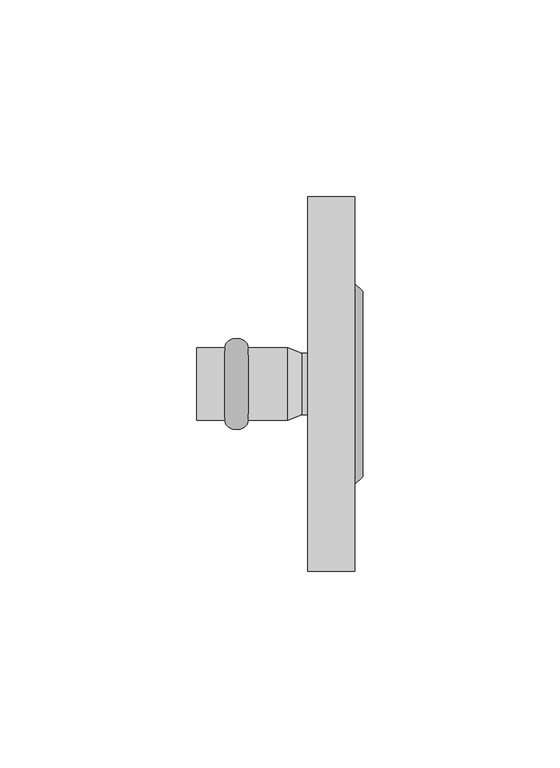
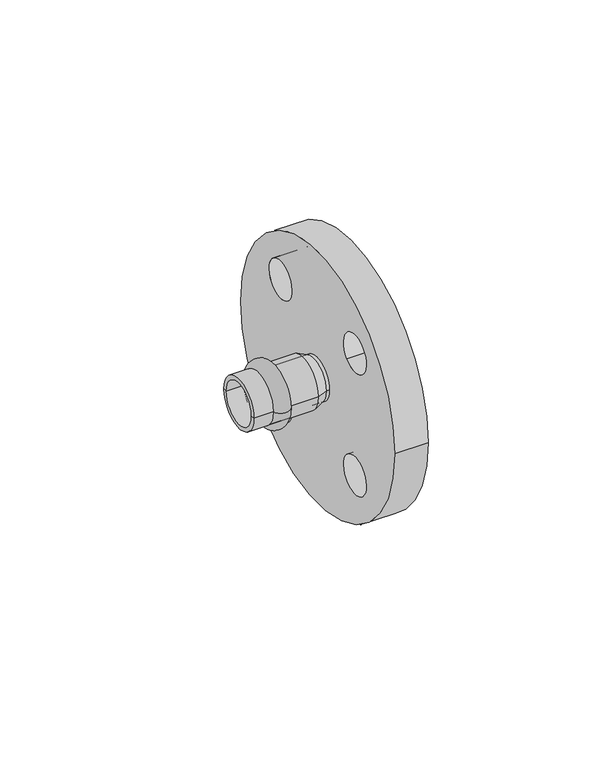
"""IFC4 building model written with IfcOpenShell, lengths in millimetres: pipe fitting geometry, РЕХАУ_Пресс Фланец : 15 x DN15."""

from ifc_helpers import new_model, si_unit, point, frame, frame_2d, origin, origin_2d, place, context, project, spatial, polyline, circle_curve, ellipse_curve, trimmed, segment, composite_curve, outline, extrude, source, transform, mapped, element, save
from ifc_brep_helpers import plane_surface, cylinder_surface, revolved_surface, advanced_brep


def pipe_fitting_cae4833f(model_context):
    return source(origin(), model_context, "Body", "SolidModel", [
        advanced_brep(
        [(-16.0, 9.25, 0.0), (-16.0, -9.25, 0.0), (-10.1, -9.25, 0.0), (-10.1, 9.25, 0.0)],
        [
            (0, 1, circle_curve(frame((-16.0, 0.0, 0.0), z_axis=(-1.0, 0.0, 0.0), x_axis=(0.0, -1.0, 0.0)), 9.25)),
            (1, 2),
            (2, 3, circle_curve(frame((-10.1, 0.0, 0.0), z_axis=(1.0, 0.0, 0.0), x_axis=(0.0, -1.0, 0.0)), 9.25)),
            (3, 0),
            (1, 0, circle_curve(frame((-16.0, 0.0, 0.0), z_axis=(-1.0, 0.0, 0.0), x_axis=(0.0, -1.0, 0.0)), 9.25)),
            (3, 2, circle_curve(frame((-10.1, 0.0, 0.0), z_axis=(1.0, 0.0, 0.0), x_axis=(0.0, -1.0, 0.0)), 9.25)),
            (2, 1, ellipse_curve(frame((-13.05, -9.25, 0.0), z_axis=(0.0, 0.0, -1.0), x_axis=(-1.0, 0.0, 0.0)), 2.95, 2.3)),
            (0, 3, ellipse_curve(frame((-13.05, 9.25, 0.0), z_axis=(0.0, 0.0, -1.0), x_axis=(-1.0, 0.0, 0.0)), 2.95, 2.3)),
        ],
        [
            revolved_surface(polyline([(-10.1, -9.25, 0.0), (-15.999999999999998, -9.25, 0.0)]), (2.9, 0.0, 0.0), (1.0, 0.0, 0.0)),
            revolved_surface(trimmed(ellipse_curve(frame((-13.05, -9.25, 0.0), z_axis=(0.0, 0.0, 1.0), x_axis=(-1.0, 0.0, 0.0)), 2.95, 2.3), [point((-16.0, -9.25, 0.0))], [point((-10.1, -9.25, 0.0))], True, "CARTESIAN"), (2.9, 0.0, 0.0), (1.0, 0.0, 0.0)),
        ],
        [
            (0, [[1, 2, 3, 4]]),
            (0, [[5, -4, 6, -2]]),
            (1, [[-3, 7, -1, 8]]),
            (1, [[-6, -8, -5, -7]]),
        ],
    ),
        advanced_brep(
        [(3.5337785, 7.75, 0.0), (3.5337785, -7.75, 0.0), (0.0, -9.25, 0.0), (0.0, 9.25, 0.0), (-23.1, 7.75, 0.0), (-23.1, -7.75, 0.0), (-23.1, 9.25, 0.0), (-23.1, -9.25, 0.0)],
        [
            (0, 1, circle_curve(frame((3.5337785, 0.0, 0.0), z_axis=(-1.0, 0.0, 0.0), x_axis=(0.0, -1.0, 0.0)), 7.75)),
            (1, 2),
            (2, 3, circle_curve(frame((0.0, 0.0, 0.0), z_axis=(1.0, 0.0, 0.0), x_axis=(0.0, -1.0, 0.0)), 9.25)),
            (3, 0),
            (1, 0, circle_curve(frame((3.5337785, 0.0, 0.0), z_axis=(-1.0, 0.0, 0.0), x_axis=(0.0, -1.0, 0.0)), 7.75)),
            (3, 2, circle_curve(frame((0.0, 0.0, 0.0), z_axis=(1.0, 0.0, 0.0), x_axis=(0.0, -1.0, 0.0)), 9.25)),
            (4, 5, circle_curve(frame((-23.1, 0.0, 0.0), z_axis=(-1.0, 0.0, 0.0), x_axis=(0.0, -1.0, 0.0)), 7.75)),
            (5, 1),
            (0, 4),
            (5, 4, circle_curve(frame((-23.1, 0.0, 0.0), z_axis=(-1.0, 0.0, 0.0), x_axis=(0.0, -1.0, 0.0)), 7.75)),
            (6, 7, circle_curve(frame((-23.1, 0.0, 0.0), z_axis=(-1.0, 0.0, 0.0), x_axis=(0.0, -1.0, 0.0)), 9.25)),
            (7, 5),
            (4, 6),
            (7, 6, circle_curve(frame((-23.1, 0.0, 0.0), z_axis=(-1.0, 0.0, 0.0), x_axis=(0.0, -1.0, 0.0)), 9.25)),
            (2, 7),
            (6, 3),
        ],
        [
            revolved_surface(polyline([(0.0, -9.25, 0.0), (3.5337785, -7.75, 0.0)]), (2.9, 0.0, 0.0), (1.0, 0.0, 0.0)),
            revolved_surface(polyline([(3.5337785, -7.75, 0.0), (-23.1, -7.75, 0.0)]), (2.9, 0.0, 0.0), (1.0, 0.0, 0.0)),
            plane_surface(frame((-23.1, 0.0, 0.0), z_axis=(-1.0, 0.0, 0.0), x_axis=(0.0, -1.0, 0.0))),
            cylinder_surface(frame((2.9, 0.0, 0.0), z_axis=(1.0, 0.0, 0.0), x_axis=(0.0, -1.0, 0.0)), 9.25),
        ],
        [
            (0, [[1, 2, 3, 4]]),
            (0, [[5, -4, 6, -2]]),
            (1, [[7, 8, -1, 9]]),
            (1, [[10, -9, -5, -8]]),
            (2, [[11, 12, -7, 13]]),
            (2, [[14, -13, -10, -12]]),
            (3, [[-3, 15, -11, 16]]),
            (3, [[-6, -16, -14, -15]]),
        ],
    ),
        advanced_brep(
        [(19.0, -23.5, 0.0), (19.0, 23.5, 0.0), (17.0, -25.5, 0.0), (17.0, 25.5, 0.0)],
        [
            (0, 1, circle_curve(frame((19.0, 0.0, 0.0), z_axis=(1.0, 0.0, 0.0), x_axis=(0.0, -1.0, 0.0)), 23.5)),
            (1, 0, circle_curve(frame((19.0, 0.0, 0.0), z_axis=(1.0, 0.0, 0.0), x_axis=(0.0, 1.0, 0.0)), 23.5)),
            (2, 3, circle_curve(frame((17.0, 0.0, 0.0), z_axis=(-1.0, 0.0, 0.0), x_axis=(0.0, 1.0, 0.0)), 25.5)),
            (3, 2, circle_curve(frame((17.0, 0.0, 0.0), z_axis=(-1.0, 0.0, 0.0), x_axis=(0.0, -1.0, 0.0)), 25.5)),
            (3, 1),
            (0, 2),
        ],
        [
            plane_surface(frame((19.0, 0.0, 0.0), z_axis=(1.0, 0.0, 0.0), x_axis=(0.0, 0.0, -1.0))),
            plane_surface(frame((17.0, 0.0, 0.0), z_axis=(-1.0, 0.0, 0.0), x_axis=(0.0, 0.0, -1.0))),
            revolved_surface(polyline([(19.0, -23.5, 0.0), (17.0, -25.5, 0.0)]), (42.5, 0.0, 0.0), (-1.0, 0.0, 0.0)),
            revolved_surface(polyline([(19.0, 23.5, 0.0), (17.0, 25.5, 0.0)]), (42.5, 0.0, 0.0), (-1.0, 0.0, 0.0)),
        ],
        [
            (0, [[1, 2]]),
            (1, [[3, 4]]),
            (2, [[-4, 5, -1, 6]]),
            (3, [[-3, -6, -2, -5]]),
        ],
    ),
        extrude(outline(composite_curve([segment(trimmed(circle_curve(origin_2d(), 47.5), [point((47.5, 0.0))], [point((-47.5, 0.0))], False, "CARTESIAN"), True, "CONTINUOUS"), segment(trimmed(circle_curve(origin_2d(), 47.5), [point((-47.5, 0.0))], [point((47.5, 0.0))], False, "CARTESIAN"), True, "CONTINUOUS")], self_intersect=False), holes=[composite_curve([segment(trimmed(circle_curve(frame_2d((22.9809704, 22.9809704)), 7.0), [point((18.0312229, 18.0312229))], [point((27.9307179, 27.9307179))], True, "CARTESIAN"), True, "CONTINUOUS"), segment(trimmed(circle_curve(frame_2d((22.9809704, 22.9809704)), 7.0), [point((27.9307179, 27.9307179))], [point((18.0312229, 18.0312229))], True, "CARTESIAN"), True, "CONTINUOUS")], self_intersect=False), composite_curve([segment(trimmed(circle_curve(frame_2d((22.9809704, -22.9809704)), 7.0), [point((18.0312229, -18.0312229))], [point((27.9307179, -27.9307179))], True, "CARTESIAN"), True, "CONTINUOUS"), segment(trimmed(circle_curve(frame_2d((22.9809704, -22.9809704)), 7.0), [point((27.9307179, -27.9307179))], [point((18.0312229, -18.0312229))], True, "CARTESIAN"), True, "CONTINUOUS")], self_intersect=False), composite_curve([segment(trimmed(circle_curve(frame_2d((-22.9809704, -22.9809704)), 7.0), [point((-18.0312229, -18.0312229))], [point((-27.9307179, -27.9307179))], True, "CARTESIAN"), True, "CONTINUOUS"), segment(trimmed(circle_curve(frame_2d((-22.9809704, -22.9809704)), 7.0), [point((-27.9307179, -27.9307179))], [point((-18.0312229, -18.0312229))], True, "CARTESIAN"), True, "CONTINUOUS")], self_intersect=False), composite_curve([segment(trimmed(circle_curve(frame_2d((-22.9809704, 22.9809704)), 7.0), [point((-18.0312229, 18.0312229))], [point((-27.9307179, 27.9307179))], True, "CARTESIAN"), True, "CONTINUOUS"), segment(trimmed(circle_curve(frame_2d((-22.9809704, 22.9809704)), 7.0), [point((-27.9307179, 27.9307179))], [point((-18.0312229, 18.0312229))], True, "CARTESIAN"), True, "CONTINUOUS")], self_intersect=False)]), frame((5.0, 0.0, 0.0), z_axis=(1.0, 0.0, 0.0), x_axis=(0.0, 1.0, 0.0)), (0.0, 0.0, 1.0), 12.0),
        extrude(outline(composite_curve([segment(trimmed(circle_curve(origin_2d(), 7.75), [point((-7.75, 0.0))], [point((7.75, 0.0))], False, "CARTESIAN"), True, "CONTINUOUS"), segment(trimmed(circle_curve(origin_2d(), 7.75), [point((7.75, 0.0))], [point((-7.75, 0.0))], False, "CARTESIAN"), True, "CONTINUOUS")], self_intersect=False)), frame((0.0, 0.0, 0.0), z_axis=(1.0, 0.0, 0.0), x_axis=(0.0, 1.0, 0.0)), (0.0, 0.0, 1.0), 5.0),
    ])


if __name__ == "__main__":
    model = new_model("IFC4")
    model_context = context("Model", 3, world=origin())
    ifc_project = project(units=[si_unit("LENGTHUNIT", "METRE", prefix="MILLI")], contexts=[model_context])
    site = spatial("IfcSite", under=ifc_project)
    building = spatial("IfcBuilding", under=site)
    placement = place(None, origin())
    pipe_fitting_shape = pipe_fitting_cae4833f(model_context)
    element("IfcPipeFitting", 1, ObjectType="РЕХАУ_Пресс Фланец : 15 x DN15", at=placement, inside=building, context=model_context, shape_type="MappedRepresentation", body=[
        mapped(pipe_fitting_shape, transform((0.0, 0.0, 0.0), x_axis=(1.0, 0.0, 0.0), y_axis=(0.0, 1.0, 0.0), z_axis=(0.0, 0.0, 1.0))),
    ])
    save(model, "model.ifc")
